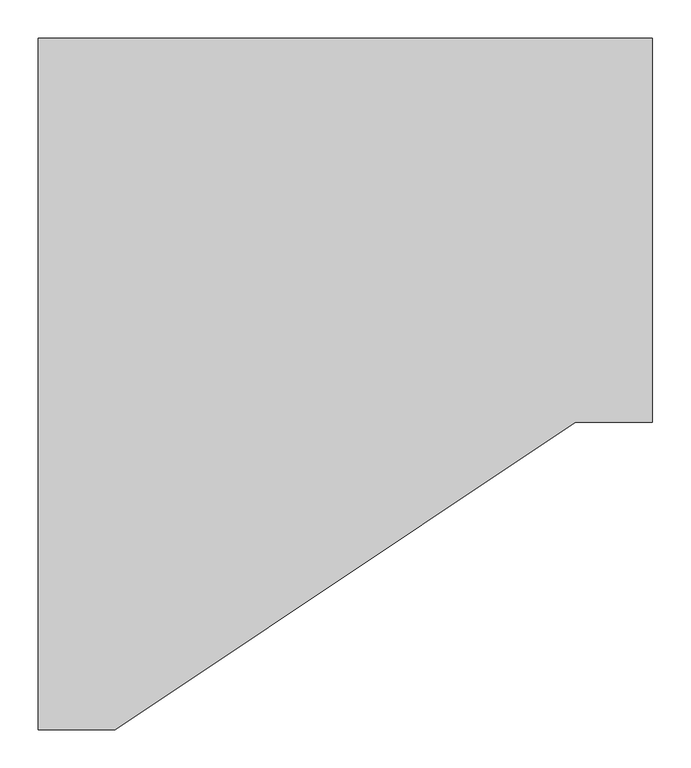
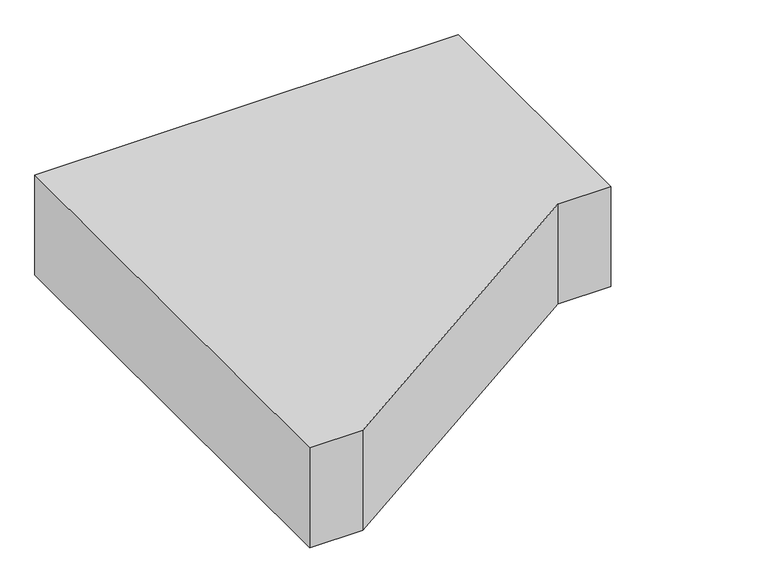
"""IFC4 building model written with IfcOpenShell, lengths in millimetres: duct fitting geometry, 2017_Reducción_Climaver_Reducción-Rectangular-a-una-cara-lateral-en-U : Reducción_En-U-a-cara-lateral_Climaver."""

from ifc_helpers import new_model, si_unit, frame, origin, place, context, project, spatial, polyline, outline, extrude, source, transform, mapped, element, save


def duct_fitting_8b4988b0(model_context):
    return source(origin(), model_context, "Body", "SweptSolid", [
        extrude(outline(polyline([(-400.0, -450.0), (-400.0, 450.0), (400.0, 450.0), (400.0, -50.0), (300.0, -50.0), (-300.0, -450.0), (-400.0, -450.0)])), frame((0.0, 0.0, -100.0), z_axis=(0.0, 0.0, 1.0), x_axis=(1.0, 0.0, 0.0)), (0.0, 0.0, 1.0), 200.0),
    ])


if __name__ == "__main__":
    model = new_model("IFC4")
    model_context = context("Model", 3, world=origin())
    ifc_project = project(units=[si_unit("LENGTHUNIT", "METRE", prefix="MILLI")], contexts=[model_context])
    site = spatial("IfcSite", under=ifc_project)
    building = spatial("IfcBuilding", under=site)
    placement = place(None, origin())
    duct_fitting_shape = duct_fitting_8b4988b0(model_context)
    element("IfcDuctFitting", 1, ObjectType="2017_Reducción_Climaver_Reducción-Rectangular-a-una-cara-lateral-en-U : Reducción_En-U-a-cara-lateral_Climaver", at=placement, inside=building, context=model_context, shape_type="MappedRepresentation", body=[
        mapped(duct_fitting_shape, transform((0.0, 0.0, 0.0), x_axis=(1.0, 0.0, 0.0), y_axis=(0.0, 1.0, 0.0), z_axis=(0.0, 0.0, 1.0))),
    ])
    save(model, "model.ifc")
